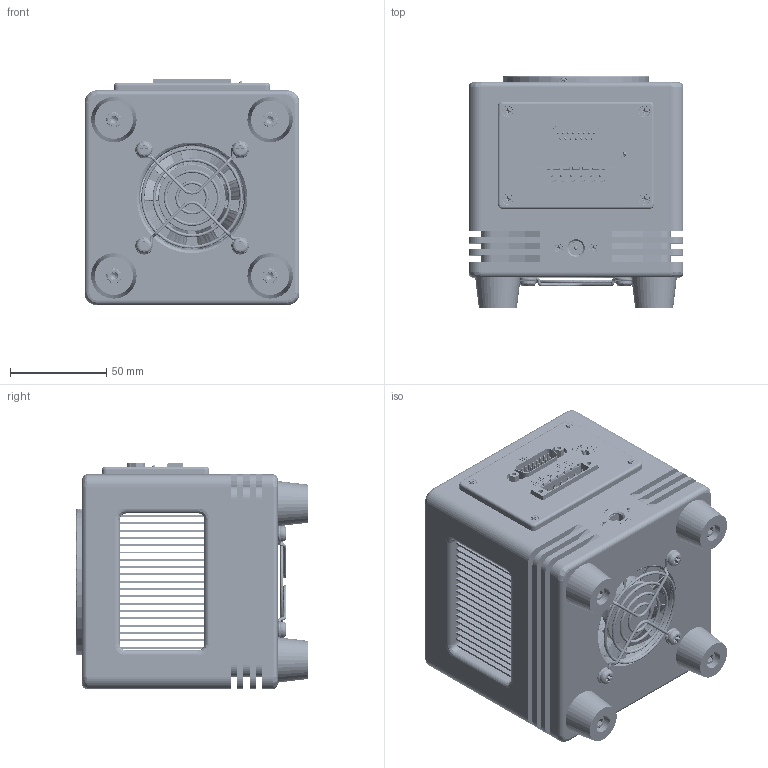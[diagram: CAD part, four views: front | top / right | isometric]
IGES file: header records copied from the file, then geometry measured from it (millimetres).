
Start section: SolidWorks IGES file using analytic representation for surfaces
Global section: file name: C:\Dropbox\Mechanical Engr\Development Projects (P)\284 TECMount\Customer Model Development\Step 4 - 284 TECMount.IGS; native system: SolidWorks 2015; preprocessor: SolidWorks 2015; author: mhanson; date: 160208.145044; units: inch
Bounding box: 111.76 x 120.8 x 117.79 mm (x, y, z)
Surface area: 305174.5 mm2 (no closed solid volume)
Topology: 0 solids, 0 shells, 3440 faces, 38715 edges, 38607 vertices
Faces by surface type: bspline 2629, revolution 811
